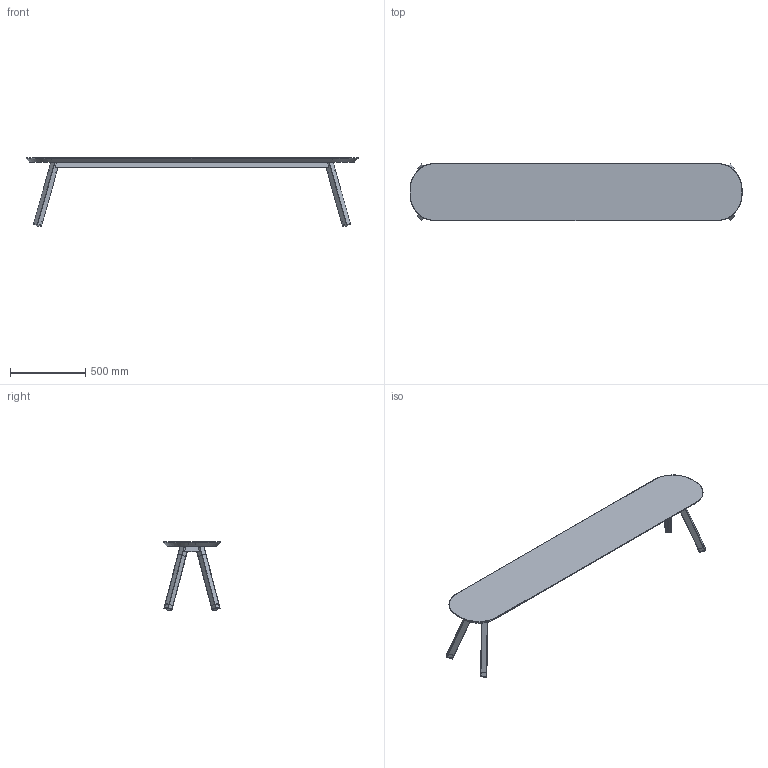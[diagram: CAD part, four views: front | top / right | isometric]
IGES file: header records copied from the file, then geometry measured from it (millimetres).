
Start section: START RECORD GO HERE.
Global section: file name: RS_Y&M_Bench_220_IGS.igs; native system: DASSAULT SYSTEMES CATIA V5 R21 - www.3ds.com; preprocessor: CATIA Version 5 Release 21 ; author: DISSENY; organization: DISSENY-PC; date: 20170509.132521; units: millimetre
Bounding box: 2200 x 380 x 454.42 mm (x, y, z)
Surface area: 4565914.3 mm2 (no closed solid volume)
Topology: 0 solids, 0 shells, 646 faces, 3480 edges, 3480 vertices
Faces by surface type: plane 342, revolution 304
